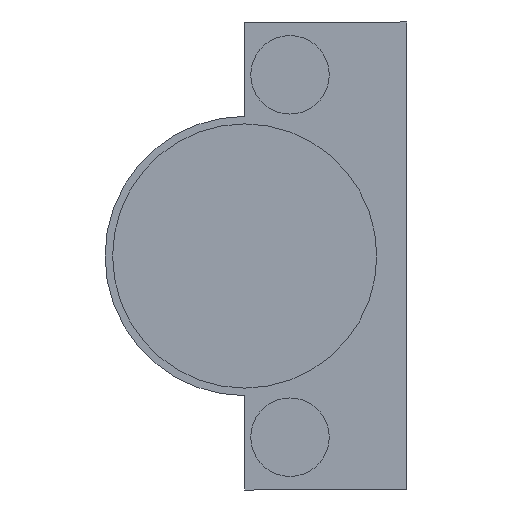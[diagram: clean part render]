
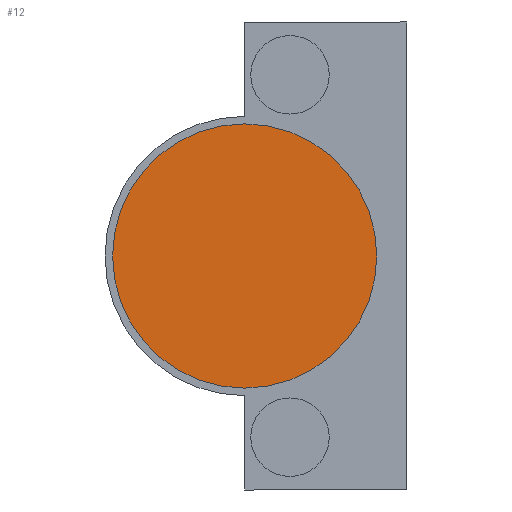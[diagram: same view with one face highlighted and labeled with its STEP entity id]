
A CAD part, front view. The second image highlights one B-rep face of the part: STEP entity #12.
In plain terms, the highlighted planar face has unit normal (0, -1, 0).
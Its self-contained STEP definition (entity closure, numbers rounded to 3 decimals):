
#12 = ADVANCED_FACE ( 'NONE', ( #677 ), #1126, .T. ) ;
#109 = EDGE_CURVE ( 'NONE', #1018, #1012, #827, .T. ) ;
#118 = EDGE_CURVE ( 'NONE', #1012, #1018, #844, .T. ) ;
#274 = AXIS2_PLACEMENT_3D ( 'NONE', #1125, #1128, #1129 ) ;
#291 = AXIS2_PLACEMENT_3D ( 'NONE', #1401, #1402, #1403 ) ;
#294 = AXIS2_PLACEMENT_3D ( 'NONE', #1420, #1422, #1423 ) ;
#504 = ORIENTED_EDGE ( 'NONE', *, *, #109, .T. ) ;
#505 = ORIENTED_EDGE ( 'NONE', *, *, #118, .T. ) ;
#636 = EDGE_LOOP ( 'NONE', ( #504, #505 ) ) ;
#677 = FACE_OUTER_BOUND ( 'NONE', #636, .T. ) ;
#827 = CIRCLE ( 'NONE', #291, 17.5 ) ;
#844 = CIRCLE ( 'NONE', #294, 17.5 ) ;
#1012 = VERTEX_POINT ( 'NONE', #1622 ) ;
#1018 = VERTEX_POINT ( 'NONE', #1630 ) ;
#1125 = CARTESIAN_POINT ( 'NONE',  ( 12., -12.6, 0. ) ) ;
#1126 = PLANE ( 'NONE',  #274 ) ;
#1128 = DIRECTION ( 'NONE',  ( 0., -1., 0. ) ) ;
#1129 = DIRECTION ( 'NONE',  ( 1., 0., 0. ) ) ;
#1401 = CARTESIAN_POINT ( 'NONE',  ( 12., -12.6, 0. ) ) ;
#1402 = DIRECTION ( 'NONE',  ( 0., -1., 0. ) ) ;
#1403 = DIRECTION ( 'NONE',  ( 1., 0., 0. ) ) ;
#1420 = CARTESIAN_POINT ( 'NONE',  ( 12., -12.6, 0. ) ) ;
#1422 = DIRECTION ( 'NONE',  ( 0., -1., 0. ) ) ;
#1423 = DIRECTION ( 'NONE',  ( 1., 0., 0. ) ) ;
#1622 = CARTESIAN_POINT ( 'NONE',  ( 29.5, -12.6, 0. ) ) ;
#1630 = CARTESIAN_POINT ( 'NONE',  ( -5.5, -12.6, 0. ) ) ;
